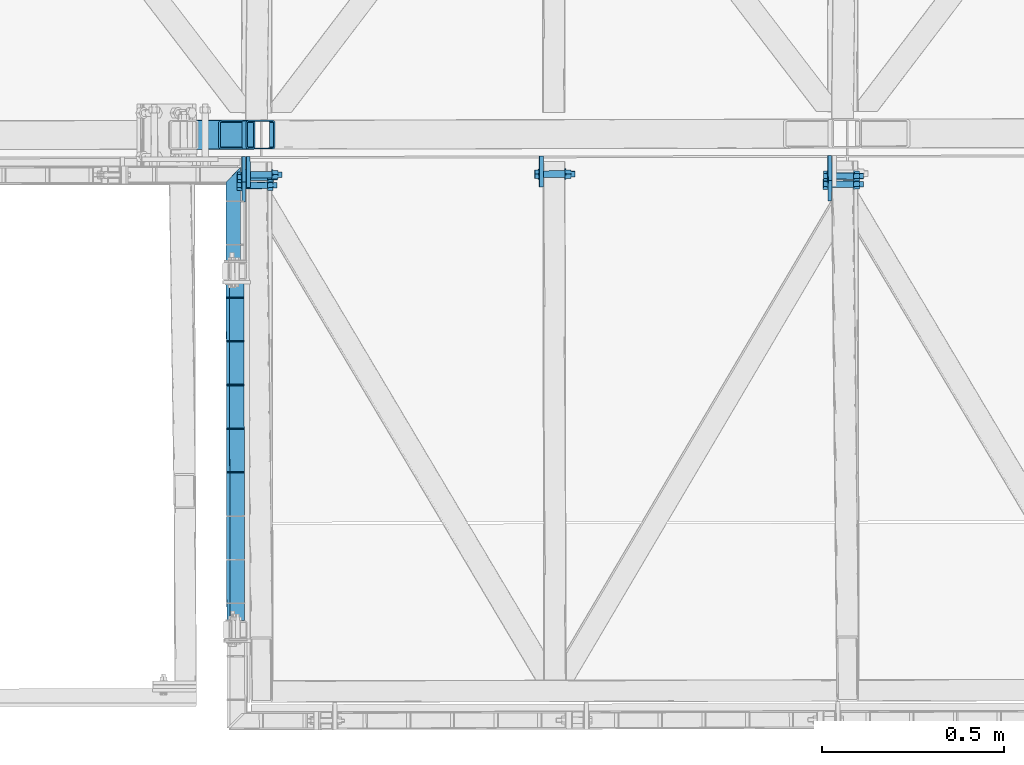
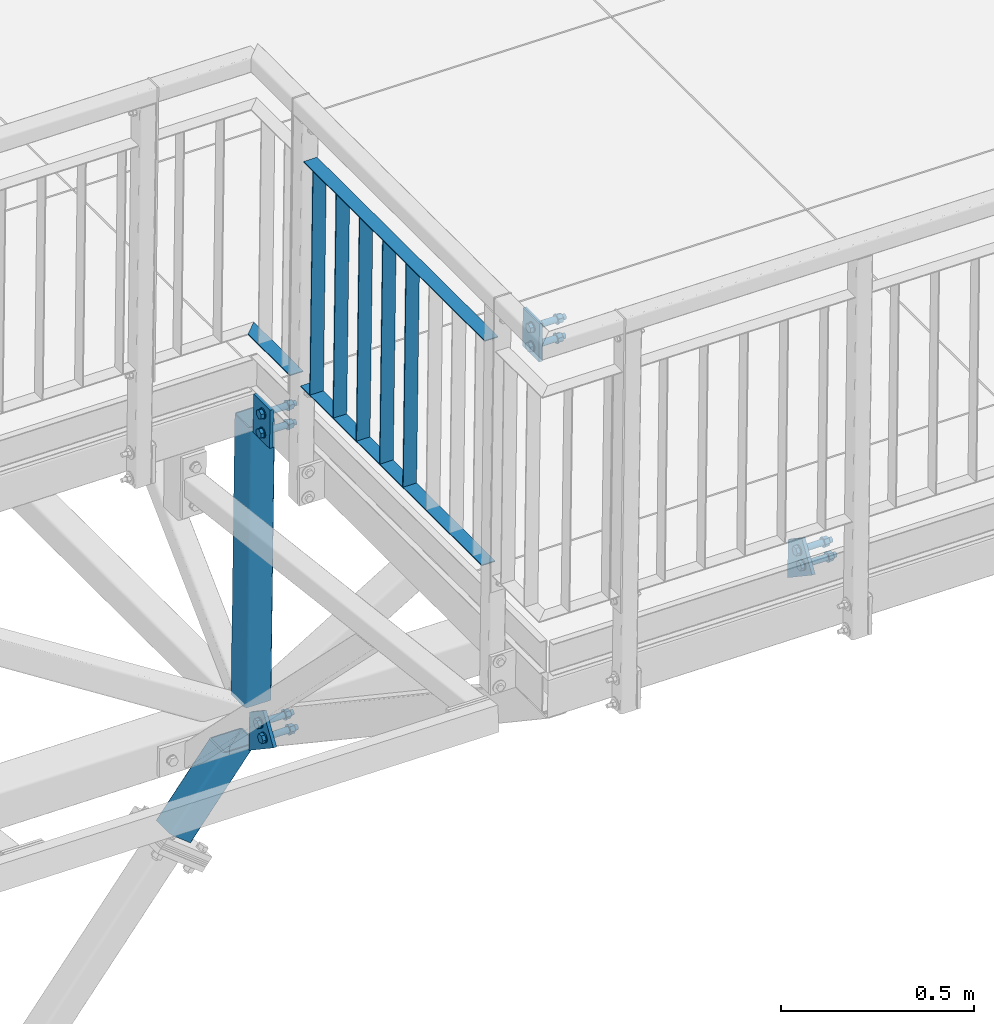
# One storey, part 109 of 169: 14 discrete accessories, 4 mechanical fasteners, 3 elements without a shape of their own.
"""IFC2X3 building model written with IfcOpenShell, lengths in millimetres."""

from ifc_helpers import new_model, si_unit, frame, frame_2d, origin_with_axes, origin_2d_with_axis, place, context, subcontext, project, spatial, polyline, circle_curve, parameter, trimmed, segment, composite_curve, rectangle, hollow_rectangle, circle, outline, extrude, boolean, clip, halfspace, source, transform, mapped, material, type_object, element, aggregate, save


model = new_model("IFC2X3")

# Units and contexts
model_context = context("Model", 3, precision=1e-05, world=origin_with_axes())
body_context = subcontext(model_context, "Body", "Model", "MODEL_VIEW")
ifc_project = project(units=[si_unit("LENGTHUNIT", "METRE", prefix="MILLI"), si_unit("AREAUNIT", "SQUARE_METRE"), si_unit("VOLUMEUNIT", "CUBIC_METRE"), si_unit("MASSUNIT", "GRAM", prefix="KILO"), si_unit("TIMEUNIT", "SECOND"), si_unit("PLANEANGLEUNIT", "RADIAN"), si_unit("SOLIDANGLEUNIT", "STERADIAN"), si_unit("THERMODYNAMICTEMPERATUREUNIT", "DEGREE_CELSIUS"), si_unit("LUMINOUSINTENSITYUNIT", "LUMEN")], contexts=[model_context])

# Site, building, storey
site_placement = place(None, origin_with_axes())
site = spatial("IfcSite", under=ifc_project, at=site_placement, Name="Undefined", CompositionType="ELEMENT")
building_placement = place(site_placement, origin_with_axes())
building = spatial("IfcBuilding", under=site, at=building_placement, Name="Undefined", CompositionType="ELEMENT")
storey_placement = place(building_placement, origin_with_axes())
storey = spatial("IfcBuildingStorey", under=building, at=storey_placement, Name="Undefined", CompositionType="ELEMENT", Elevation=0.0)

# Assembly, discrete accessories
assembly_1_placement = place(storey_placement, origin_with_axes())
assembly_1 = element("IfcElementAssembly", 1, at=assembly_1_placement, inside=storey, Name="Steel Assembly", AssemblyPlace="NOTDEFINED", PredefinedType="RIGID_FRAME")
ifc_material_1 = material(Name="STEEL/S355")
discrete_accessory_type_1 = type_object("IfcDiscreteAccessoryType", Name="BEAM")
discrete_accessory_1_placement = place(assembly_1_placement, frame((7478.4648161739, 118.960383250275, 12558.5708791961), z_axis=(-0.784458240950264, -0.00146288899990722, 0.620179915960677), x_axis=(0.620178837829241, 0.00115653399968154, 0.784459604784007)))
discrete_accessory_1 = element("IfcDiscreteAccessory", 2, at=discrete_accessory_1_placement, type_object=discrete_accessory_type_1, material=ifc_material_1, Name="BEAM", ObjectType="K80/4", context=body_context, shape_type="Clipping", body=[
    clip(clip(extrude(hollow_rectangle(XDim=80.0, YDim=80.0, WallThickness=4.0, InnerFilletRadius=4.0, OuterFilletRadius=8.0, at=origin_2d_with_axis()), frame((375.198448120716, 1.42997335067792e-14, -2.0654597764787e-13), z_axis=(-1.0, -3.46944695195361e-18, -1.38777878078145e-17), x_axis=(1.73472347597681e-18, -1.0, 0.0)), (0.0, 0.0, 1.0), 358.7), halfspace(frame((-278.391295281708, -2.59865785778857e-06, 755.671245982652), z_axis=(-0.792280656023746, -4.31759030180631e-08, -0.610156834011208), x_axis=(1.73472347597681e-18, -1.0, 0.0)), True)), halfspace(frame((16.5000003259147, 3.71528585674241e-10, -1000.00000000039), z_axis=(1.0, 0.0, 0.0), x_axis=(1.73472347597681e-18, -1.0, 0.0)), True)),
])
discrete_accessory_2_placement = place(assembly_1_placement, frame((7719.98291220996, 119.410728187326, 12856.038280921), z_axis=(-0.999917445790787, -0.00186469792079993, 0.0127131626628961), x_axis=(0.012713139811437, 2.3750999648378e-05, 0.999919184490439)))
discrete_accessory_2 = element("IfcDiscreteAccessory", 3, at=discrete_accessory_2_placement, type_object=discrete_accessory_type_1, material=ifc_material_1, Name="BEAM", ObjectType="K80/4", context=body_context, shape_type="Clipping", body=[
    clip(clip(extrude(hollow_rectangle(XDim=80.0, YDim=80.0, WallThickness=4.0, InnerFilletRadius=4.0, OuterFilletRadius=8.0, at=origin_2d_with_axis()), frame((940.000112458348, 4.54747487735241e-13, 0.0), z_axis=(-1.0, -3.46944695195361e-18, -1.38777878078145e-17), x_axis=(1.73472347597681e-18, -1.0, 0.0)), (0.0, 0.0, 1.0), 880.0), halfspace(frame((940.000112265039, -6.72889655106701e-09, 999.999999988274), z_axis=(-1.0, -3.46944695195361e-18, -1.38777878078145e-17), x_axis=(1.73472347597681e-18, -1.0, 0.0)), True)), halfspace(frame((60.0001122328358, 8.14088707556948e-09, 1000.00000001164), z_axis=(1.0, 0.0, 0.0), x_axis=(0.0, 1.0, 0.0)), True)),
])

assembly_2_placement = place(storey_placement, origin_with_axes())
assembly_2 = element("IfcElementAssembly", 4, at=assembly_2_placement, inside=storey, Name="Steel Assembly", AssemblyPlace="NOTDEFINED", PredefinedType="RIGID_FRAME")
ifc_material_2 = material(Name="STEEL/S235")
discrete_accessory_type_2 = type_object("IfcDiscreteAccessoryType", Name="PORĘCZ")
discrete_accessory_3_placement = place(assembly_2_placement, frame((7666.25905544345, -230.689979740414, 14871.8926181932), z_axis=(0.012713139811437, 2.3750999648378e-05, 0.999919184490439), x_axis=(0.00186484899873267, -0.999998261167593, 4.28757666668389e-08)))
discrete_accessory_3 = element("IfcDiscreteAccessory", 5, at=discrete_accessory_3_placement, type_object=discrete_accessory_type_2, material=ifc_material_2, Name="PORĘCZ", ObjectType="BL40*3", context=body_context, shape_type="CSG", body=[
    boolean("DIFFERENCE", boolean("DIFFERENCE", boolean("DIFFERENCE", boolean("DIFFERENCE", extrude(outline(polyline([(50.500000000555, -19.9999999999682), (50.5000000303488, 20.0000000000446), (984.50000013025, 20.0000000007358), (984.500000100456, -19.999999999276), (50.500000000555, -19.9999999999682)])), frame((1.81898940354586e-12, -1.77635442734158e-15, -1.50000000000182), z_axis=(0.0, 0.0, 1.0), x_axis=(1.0, 0.0, 0.0)), (0.0, 0.0, 1.0), 3.0), extrude(rectangle(XDim=51.0, YDim=51.0, at=origin_2d_with_axis()), frame((25.0000000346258, 1.44818630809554e-07, 139.999999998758), z_axis=(-2.54700353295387e-10, 0.0, -1.0), x_axis=(-1.0, -3.46944695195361e-18, -1.38777878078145e-17)), (0.0, 0.0, 1.0), 280.0)), extrude(rectangle(XDim=51.0, YDim=51.0, at=origin_2d_with_axis()), frame((1010.00000013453, -5.89554615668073e-07, 139.999999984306), z_axis=(-2.54700353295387e-10, 0.0, -1.0), x_axis=(-1.0, -3.46944695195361e-18, -1.38777878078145e-17)), (0.0, 0.0, 1.0), 280.0)), halfspace(frame((49.9999993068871, -1000.000000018, -2.67391442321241e-09), z_axis=(1.0, 0.0, 0.0), x_axis=(0.0, 0.0, 1.0)), True)), halfspace(frame((984.999999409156, -999.999999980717, 4.22915036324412e-09), z_axis=(-1.0, -3.46944695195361e-18, -1.38777878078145e-17), x_axis=(-2.54700353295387e-10, 0.0, -1.0)), True)),
])
discrete_accessory_4_placement = place(assembly_2_placement, frame((7668.28428365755, -328.186366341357, 15016.8809043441), z_axis=(0.9999174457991, 0.00186469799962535, -0.0127131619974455), x_axis=(-0.012713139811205, -2.37511238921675e-05, -0.999919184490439)))
discrete_accessory_4 = element("IfcDiscreteAccessory", 6, at=discrete_accessory_4_placement, type_object=discrete_accessory_type_2, material=ifc_material_2, Name="PORĘCZ", ObjectType="BL40*3", context=body_context, shape_type="Clipping", body=[
    clip(clip(extrude(rectangle(XDim=3.0, YDim=40.0, at=origin_2d_with_axis()), frame((848.500000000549, 1.47191286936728e-15, -8.89750592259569e-16), z_axis=(-1.0, -3.46944695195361e-18, -1.38777878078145e-17), x_axis=(1.73472347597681e-18, -1.0, 0.0)), (0.0, 0.0, 1.0), 702.0), halfspace(frame((848.500000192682, -1.64149582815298e-10, -999.999999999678), z_axis=(-1.0, -3.46944695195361e-18, -1.38777878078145e-17), x_axis=(0.0, 1.0, 0.0)), True)), halfspace(frame((146.500000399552, -5.92180526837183e-10, -999.999999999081), z_axis=(1.0, 0.0, 0.0), x_axis=(1.73472347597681e-18, -1.0, 0.0)), True)),
])
discrete_accessory_5_placement = place(assembly_2_placement, frame((7668.50806556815, -448.186157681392, 15016.8809095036), z_axis=(0.9999174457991, 0.00186469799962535, -0.0127131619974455), x_axis=(-0.012713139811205, -2.37511238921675e-05, -0.999919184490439)))
discrete_accessory_5 = element("IfcDiscreteAccessory", 7, at=discrete_accessory_5_placement, type_object=discrete_accessory_type_2, material=ifc_material_2, Name="PORĘCZ", ObjectType="BL40*3", context=body_context, shape_type="Clipping", body=[
    clip(clip(extrude(rectangle(XDim=3.0, YDim=40.0, at=origin_2d_with_axis()), frame((848.500000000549, 1.47191286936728e-15, -8.89750592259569e-16), z_axis=(-1.0, -3.46944695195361e-18, -1.38777878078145e-17), x_axis=(1.73472347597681e-18, -1.0, 0.0)), (0.0, 0.0, 1.0), 702.0), halfspace(frame((848.500000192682, -1.64149582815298e-10, -999.999999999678), z_axis=(-1.0, -3.46944695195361e-18, -1.38777878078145e-17), x_axis=(0.0, 1.0, 0.0)), True)), halfspace(frame((146.500000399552, -5.92180526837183e-10, -999.999999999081), z_axis=(1.0, 0.0, 0.0), x_axis=(1.73472347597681e-18, -1.0, 0.0)), True)),
])
discrete_accessory_6_placement = place(assembly_2_placement, frame((7668.73184747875, -568.185949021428, 15016.880914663), z_axis=(0.9999174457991, 0.00186469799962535, -0.0127131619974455), x_axis=(-0.012713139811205, -2.37511238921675e-05, -0.999919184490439)))
discrete_accessory_6 = element("IfcDiscreteAccessory", 8, at=discrete_accessory_6_placement, type_object=discrete_accessory_type_2, material=ifc_material_2, Name="PORĘCZ", ObjectType="BL40*3", context=body_context, shape_type="Clipping", body=[
    clip(clip(extrude(rectangle(XDim=3.0, YDim=40.0, at=origin_2d_with_axis()), frame((848.500000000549, 1.47191286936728e-15, -8.89750592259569e-16), z_axis=(-1.0, -3.46944695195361e-18, -1.38777878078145e-17), x_axis=(1.73472347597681e-18, -1.0, 0.0)), (0.0, 0.0, 1.0), 702.0), halfspace(frame((848.500000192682, -1.64149582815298e-10, -999.999999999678), z_axis=(-1.0, -3.46944695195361e-18, -1.38777878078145e-17), x_axis=(0.0, 1.0, 0.0)), True)), halfspace(frame((146.500000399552, -5.92180526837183e-10, -999.999999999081), z_axis=(1.0, 0.0, 0.0), x_axis=(1.73472347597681e-18, -1.0, 0.0)), True)),
])
discrete_accessory_7_placement = place(assembly_2_placement, frame((7668.95562938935, -688.185740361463, 15016.8809198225), z_axis=(0.9999174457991, 0.00186469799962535, -0.0127131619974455), x_axis=(-0.012713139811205, -2.37511238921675e-05, -0.999919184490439)))
discrete_accessory_7 = element("IfcDiscreteAccessory", 9, at=discrete_accessory_7_placement, type_object=discrete_accessory_type_2, material=ifc_material_2, Name="PORĘCZ", ObjectType="BL40*3", context=body_context, shape_type="Clipping", body=[
    clip(clip(extrude(rectangle(XDim=3.0, YDim=40.0, at=origin_2d_with_axis()), frame((848.500000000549, 1.47191286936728e-15, -8.89750592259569e-16), z_axis=(-1.0, -3.46944695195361e-18, -1.38777878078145e-17), x_axis=(1.73472347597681e-18, -1.0, 0.0)), (0.0, 0.0, 1.0), 702.0), halfspace(frame((848.500000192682, -1.64149582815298e-10, -999.999999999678), z_axis=(-1.0, -3.46944695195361e-18, -1.38777878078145e-17), x_axis=(0.0, 1.0, 0.0)), True)), halfspace(frame((146.500000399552, -5.92180526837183e-10, -999.999999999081), z_axis=(1.0, 0.0, 0.0), x_axis=(1.73472347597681e-18, -1.0, 0.0)), True)),
])
discrete_accessory_8_placement = place(assembly_2_placement, frame((7669.17941129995, -808.185531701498, 15016.880924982), z_axis=(0.9999174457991, 0.00186469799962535, -0.0127131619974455), x_axis=(-0.012713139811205, -2.37511238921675e-05, -0.999919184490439)))
discrete_accessory_8 = element("IfcDiscreteAccessory", 10, at=discrete_accessory_8_placement, type_object=discrete_accessory_type_2, material=ifc_material_2, Name="PORĘCZ", ObjectType="BL40*3", context=body_context, shape_type="Clipping", body=[
    clip(clip(extrude(rectangle(XDim=3.0, YDim=40.0, at=origin_2d_with_axis()), frame((848.500000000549, 1.47191286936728e-15, -8.89750592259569e-16), z_axis=(-1.0, -3.46944695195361e-18, -1.38777878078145e-17), x_axis=(1.73472347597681e-18, -1.0, 0.0)), (0.0, 0.0, 1.0), 702.0), halfspace(frame((848.500000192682, -1.64149582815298e-10, -999.999999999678), z_axis=(-1.0, -3.46944695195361e-18, -1.38777878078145e-17), x_axis=(0.0, 1.0, 0.0)), True)), halfspace(frame((146.500000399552, -5.92180526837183e-10, -999.999999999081), z_axis=(1.0, 0.0, 0.0), x_axis=(1.73472347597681e-18, -1.0, 0.0)), True)),
])
discrete_accessory_9_placement = place(assembly_2_placement, frame((7656.8767009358, -5.70711558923, 14166.949583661), z_axis=(0.012713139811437, 2.3750999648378e-05, 0.999919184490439), x_axis=(0.00186484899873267, -0.999998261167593, 4.28757666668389e-08)))
discrete_accessory_9 = element("IfcDiscreteAccessory", 11, at=discrete_accessory_9_placement, type_object=discrete_accessory_type_2, material=ifc_material_2, Name="PORĘCZ", ObjectType="BL40*3", context=body_context, shape_type="CSG", body=[
    boolean("DIFFERENCE", boolean("DIFFERENCE", boolean("DIFFERENCE", boolean("DIFFERENCE", extrude(outline(polyline([(5.00000188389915, -20.0000000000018), (-34.9999980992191, 19.9999999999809), (220.000004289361, 20.0000000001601), (220.000004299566, -19.9999999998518), (5.00000188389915, -20.0000000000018)])), frame((1.81898940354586e-12, -1.77635442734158e-15, -1.50000000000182), z_axis=(0.0, 0.0, 1.0), x_axis=(1.0, 0.0, 0.0)), (0.0, 0.0, 1.0), 3.0), extrude(rectangle(XDim=51.0, YDim=51.0, at=origin_2d_with_axis()), frame((249.999999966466, -2.54023980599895e-08, 139.999999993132), z_axis=(-2.54700353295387e-10, 0.0, -1.0), x_axis=(-1.0, -3.46944695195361e-18, -1.38777878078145e-17)), (0.0, 0.0, 1.0), 280.0)), halfspace(frame((220.000004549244, -1000.00000000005, 1.11504050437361e-09), z_axis=(-1.0, -3.46944695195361e-18, -1.38777878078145e-17), x_axis=(-2.54700353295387e-10, 0.0, -1.0)), True)), halfspace(frame((5.00000188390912, -20.0000000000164, -7.27595761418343e-12), z_axis=(-0.707106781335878, -0.707106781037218, 2.34571939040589e-10), x_axis=(-2.54700353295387e-10, 0.0, -1.0)), False)), halfspace(frame((224.9999992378, -999.999999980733, 4.2127794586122e-09), z_axis=(-1.0, -3.46944695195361e-18, -1.38777878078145e-17), x_axis=(-2.54700353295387e-10, 0.0, -1.0)), True)),
])
discrete_accessory_10_placement = place(assembly_2_placement, frame((7657.29629201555, -230.706724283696, 14166.9495933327), z_axis=(0.012713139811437, 2.3750999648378e-05, 0.999919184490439), x_axis=(0.00186484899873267, -0.999998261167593, 4.28757666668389e-08)))
discrete_accessory_10 = element("IfcDiscreteAccessory", 12, at=discrete_accessory_10_placement, type_object=discrete_accessory_type_2, material=ifc_material_2, Name="PORĘCZ", ObjectType="BL40*3", context=body_context, shape_type="CSG", body=[
    boolean("DIFFERENCE", boolean("DIFFERENCE", boolean("DIFFERENCE", boolean("DIFFERENCE", extrude(outline(polyline([(50.500000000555, -19.9999999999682), (50.5000000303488, 20.0000000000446), (984.50000013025, 20.0000000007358), (984.500000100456, -19.999999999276), (50.500000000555, -19.9999999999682)])), frame((1.81898940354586e-12, -1.77635442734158e-15, -1.50000000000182), z_axis=(0.0, 0.0, 1.0), x_axis=(1.0, 0.0, 0.0)), (0.0, 0.0, 1.0), 3.0), extrude(rectangle(XDim=51.0, YDim=51.0, at=origin_2d_with_axis()), frame((25.0000000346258, 1.44818630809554e-07, 139.999999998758), z_axis=(-2.54700353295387e-10, 0.0, -1.0), x_axis=(-1.0, -3.46944695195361e-18, -1.38777878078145e-17)), (0.0, 0.0, 1.0), 280.0)), extrude(rectangle(XDim=51.0, YDim=51.0, at=origin_2d_with_axis()), frame((1010.00000013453, -5.89554615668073e-07, 139.999999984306), z_axis=(-2.54700353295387e-10, 0.0, -1.0), x_axis=(-1.0, -3.46944695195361e-18, -1.38777878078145e-17)), (0.0, 0.0, 1.0), 280.0)), halfspace(frame((49.9999993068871, -1000.000000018, -2.67391442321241e-09), z_axis=(1.0, 0.0, 0.0), x_axis=(0.0, 0.0, 1.0)), True)), halfspace(frame((984.999999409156, -999.999999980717, 4.22915036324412e-09), z_axis=(-1.0, -3.46944695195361e-18, -1.38777878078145e-17), x_axis=(-2.54700353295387e-10, 0.0, -1.0)), True)),
])
aggregate(assembly_2, [discrete_accessory_3, discrete_accessory_4, discrete_accessory_5, discrete_accessory_6, discrete_accessory_7, discrete_accessory_8, discrete_accessory_9, discrete_accessory_10])

# Mechanical fastener
ifc_material_3 = material(Name="Undefined")
discrete_accessory_type_3 = type_object("IfcDiscreteAccessoryType", Name="Bolt assembly")
shared_shape_1 = source(origin_with_axes(), body_context, "Body", "SweptSolid", [
    extrude(circle(Radius=9.5, at=origin_2d_with_axis()), frame((0.0, 9.90000279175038, 0.0), z_axis=(0.0, 1.0, 0.0), x_axis=(1.0, 0.0, 0.0)), (0.0, 0.0, 1.0), 60.1),
    extrude(outline(composite_curve([segment(polyline([(9.5, 10.0), (9.5, -10.0)]), True, "CONTINUOUS"), segment(trimmed(circle_curve(frame_2d((0.0, -10.0), x_axis=(1.0, 0.0)), 9.5), [parameter(0.0)], [parameter(3.14159265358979)], False, "PARAMETER"), True, "CONTINUOUS"), segment(polyline([(-9.5, -10.0), (-9.5, 10.0)]), True, "CONTINUOUS"), segment(trimmed(circle_curve(frame_2d((0.0, 10.0), x_axis=(-1.0, 0.0)), 9.5), [parameter(0.0)], [parameter(3.14159265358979)], False, "PARAMETER"), True, "DISCONTINUOUS")], self_intersect=False)), frame((0.0, 0.100000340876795, 0.0), z_axis=(0.0, 1.0, 0.0), x_axis=(1.0, 0.0, 0.0)), (0.0, 0.0, 1.0), 10.0),
    extrude(outline(polyline([(13.85640646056, 0.0), (6.92820323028, 12.0000000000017), (-6.92820323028, 12.0000000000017), (-13.85640646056, 0.0), (-6.92820323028, -12.0000000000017), (6.92820323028, -12.0000000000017), (13.85640646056, 0.0)])), frame((0.0, -13.0000060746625, 0.0), z_axis=(0.0, 1.0, 0.0), x_axis=(1.0, 0.0, 0.0)), (0.0, 0.0, 1.0), 10.0),
    extrude(circle(Radius=8.0, at=origin_2d_with_axis()), frame((0.0, -3.00000607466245, 0.0), z_axis=(0.0, 1.0, 0.0), x_axis=(1.0, 0.0, 0.0)), (0.0, 0.0, 1.0), 100.0),
    extrude(circle(Radius=15.0, at=origin_2d_with_axis()), frame((0.0, -3.00000607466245, 0.0), z_axis=(0.0, 1.0, 0.0), x_axis=(1.0, 0.0, 0.0)), (0.0, 0.0, 1.0), 3.0),
    extrude(circle(Radius=15.0, at=origin_2d_with_axis()), frame((0.0, 70.000002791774, 0.0), z_axis=(0.0, 1.0, 0.0), x_axis=(1.0, 0.0, 0.0)), (0.0, 0.0, 1.0), 3.0),
    extrude(outline(polyline([(13.85640646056, 0.0), (6.92820323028, 12.0000000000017), (-6.92820323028, 12.0000000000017), (-13.85640646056, 0.0), (-6.92820323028, -12.0000000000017), (6.92820323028, -12.0000000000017), (13.85640646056, 0.0)])), frame((0.0, 73.000002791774, 0.0), z_axis=(0.0, 1.0, 0.0), x_axis=(1.0, 0.0, 0.0)), (0.0, 0.0, 1.0), 13.0),
])
mechanical_fastener_1_placement = place(assembly_1_placement, frame((9290.85990969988, 5.48321175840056, 12898.1077580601), z_axis=(0.00860362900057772, -0.832035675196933, 0.554655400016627), x_axis=(-0.00954354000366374, -0.554718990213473, -0.831983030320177)))
mechanical_fastener_1 = element("IfcMechanicalFastener", 13, at=mechanical_fastener_1_placement, type_object=discrete_accessory_type_3, material=ifc_material_3, Name="Bolt assembly", NominalDiameter=16.0, NominalLength=100.0, context=body_context, shape_type="MappedRepresentation", body=[
    mapped(shared_shape_1, transform((0.0, 0.0, 0.0))),
    mapped(shared_shape_1, transform((39.9999999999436, -6.54836185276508e-11, 2.74846811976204e-11))),
])

# Discrete accessory
discrete_accessory_type_4 = type_object("IfcDiscreteAccessoryType", Name="KRATA")
discrete_accessory_11_placement = place(assembly_1_placement, frame((9294.20203181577, 62.3463127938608, 12776.0200154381), z_axis=(-0.999917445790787, -0.00186469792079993, 0.0127131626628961), x_axis=(0.00860362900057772, -0.832035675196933, 0.554655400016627)))
discrete_accessory_11 = element("IfcDiscreteAccessory", 14, at=discrete_accessory_11_placement, type_object=discrete_accessory_type_4, material=ifc_material_1, Name="KRATA", ObjectType="BL10*100", context=body_context, shape_type="SweptSolid", body=[
    extrude(outline(polyline([(0.0, 0.0), (150.000000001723, 4.00177668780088e-11), (150.000000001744, 99.9999923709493), (66.5640258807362, 99.9999923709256), (0.0, 0.0)])), frame((-1.81898926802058e-12, -1.18000176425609e-16, -5.00000000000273), z_axis=(0.0, 0.0, 1.0), x_axis=(1.0, 0.0, 0.0)), (0.0, 0.0, 1.0), 10.0),
])

discrete_accessory_12_placement = place(assembly_1_placement, frame((7684.33490628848, 59.3441489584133, 12796.4882067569), z_axis=(-0.999917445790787, -0.00186469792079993, 0.0127131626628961), x_axis=(0.00860362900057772, -0.832035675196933, 0.554655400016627)))
discrete_accessory_12 = element("IfcDiscreteAccessory", 15, at=discrete_accessory_12_placement, type_object=discrete_accessory_type_4, material=ifc_material_1, Name="KRATA", ObjectType="BL10*100", context=body_context, shape_type="SweptSolid", body=[
    extrude(outline(polyline([(0.0, 0.0), (150.000000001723, 4.00177668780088e-11), (150.000000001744, 99.9999923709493), (66.5640258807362, 99.9999923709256), (0.0, 0.0)])), frame((-1.81898926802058e-12, -1.18000176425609e-16, -5.00000000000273), z_axis=(0.0, 0.0, 1.0), x_axis=(1.0, 0.0, 0.0)), (0.0, 0.0, 1.0), 10.0),
])

# Mechanical fastener
shared_shape_2 = source(origin_with_axes(), body_context, "Body", "SweptSolid", [
    extrude(circle(Radius=9.5, at=origin_2d_with_axis()), frame((0.0, 9.90000279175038, 0.0), z_axis=(0.0, 1.0, 0.0), x_axis=(1.0, 0.0, 0.0)), (0.0, 0.0, 1.0), 60.1),
    extrude(outline(composite_curve([segment(polyline([(9.5, 10.0), (9.5, -10.0)]), True, "CONTINUOUS"), segment(trimmed(circle_curve(frame_2d((0.0, -10.0), x_axis=(1.0, 0.0)), 9.5), [parameter(0.0)], [parameter(3.14159265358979)], False, "PARAMETER"), True, "CONTINUOUS"), segment(polyline([(-9.5, -10.0), (-9.5, 10.0)]), True, "CONTINUOUS"), segment(trimmed(circle_curve(frame_2d((0.0, 10.0), x_axis=(-1.0, 0.0)), 9.5), [parameter(0.0)], [parameter(3.14159265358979)], False, "PARAMETER"), True, "DISCONTINUOUS")], self_intersect=False)), frame((0.0, 0.100000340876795, 0.0), z_axis=(0.0, 1.0, 0.0), x_axis=(1.0, 0.0, 0.0)), (0.0, 0.0, 1.0), 10.0),
    extrude(outline(polyline([(13.85640646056, 0.0), (6.92820323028, 12.0000000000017), (-6.92820323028, 12.0000000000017), (-13.85640646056, 0.0), (-6.92820323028, -12.0000000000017), (6.92820323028, -12.0000000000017), (13.85640646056, 0.0)])), frame((0.0, -13.0000060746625, 0.0), z_axis=(0.0, 1.0, 0.0), x_axis=(1.0, 0.0, 0.0)), (0.0, 0.0, 1.0), 10.0),
    extrude(circle(Radius=8.0, at=origin_2d_with_axis()), frame((0.0, -3.00000607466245, 0.0), z_axis=(0.0, 1.0, 0.0), x_axis=(1.0, 0.0, 0.0)), (0.0, 0.0, 1.0), 100.0),
    extrude(circle(Radius=15.0, at=origin_2d_with_axis()), frame((0.0, -3.00000607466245, 0.0), z_axis=(0.0, 1.0, 0.0), x_axis=(1.0, 0.0, 0.0)), (0.0, 0.0, 1.0), 3.0),
    extrude(circle(Radius=15.0, at=origin_2d_with_axis()), frame((0.0, 70.000002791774, 0.0), z_axis=(0.0, 1.0, 0.0), x_axis=(1.0, 0.0, 0.0)), (0.0, 0.0, 1.0), 3.0),
    extrude(outline(polyline([(13.85640646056, 0.0), (6.92820323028, 12.0000000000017), (-6.92820323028, 12.0000000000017), (-13.85640646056, 0.0), (-6.92820323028, -12.0000000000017), (6.92820323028, -12.0000000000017), (13.85640646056, 0.0)])), frame((0.0, 73.000002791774, 0.0), z_axis=(0.0, 1.0, 0.0), x_axis=(1.0, 0.0, 0.0)), (0.0, 0.0, 1.0), 13.0),
])
mechanical_fastener_2_placement = place(assembly_1_placement, frame((7680.99278417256, 2.48104792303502, 12918.575949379), z_axis=(0.00860362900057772, -0.832035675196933, 0.554655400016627), x_axis=(-0.00954354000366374, -0.554718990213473, -0.831983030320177)))
mechanical_fastener_2 = element("IfcMechanicalFastener", 16, at=mechanical_fastener_2_placement, type_object=discrete_accessory_type_3, material=ifc_material_3, Name="Bolt assembly", NominalDiameter=16.0, NominalLength=100.0, context=body_context, shape_type="MappedRepresentation", body=[
    mapped(shared_shape_2, transform((0.0, 0.0, 0.0))),
    mapped(shared_shape_2, transform((39.9999999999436, -6.54836185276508e-11, 2.74846811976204e-11))),
])

# Assembly, mechanical fastener
assembly_3_placement = place(storey_placement, origin_with_axes())
assembly_3 = element("IfcElementAssembly", 17, at=assembly_3_placement, inside=storey, Name="Steel Assembly", AssemblyPlace="NOTDEFINED", PredefinedType="RIGID_FRAME")
shared_shape_3 = source(origin_with_axes(), body_context, "Body", "SweptSolid", [
    extrude(outline(composite_curve([segment(polyline([(9.5, 10.0), (9.5, -10.0)]), True, "CONTINUOUS"), segment(trimmed(circle_curve(frame_2d((0.0, -10.0), x_axis=(1.0, 0.0)), 9.5), [parameter(0.0)], [parameter(3.14159265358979)], False, "PARAMETER"), True, "CONTINUOUS"), segment(polyline([(-9.5, -10.0), (-9.5, 10.0)]), True, "CONTINUOUS"), segment(trimmed(circle_curve(frame_2d((0.0, 10.0), x_axis=(-1.0, 0.0)), 9.5), [parameter(0.0)], [parameter(3.14159265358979)], False, "PARAMETER"), True, "DISCONTINUOUS")], self_intersect=False)), frame((0.0, -9.90000000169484, 0.0), z_axis=(0.0, 1.0, 0.0), x_axis=(1.0, 0.0, 0.0)), (0.0, 0.0, 1.0), 10.0),
    extrude(circle(Radius=9.5, at=origin_2d_with_axis()), frame((0.0, -0.100000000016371, 0.0), z_axis=(0.0, 1.0, 0.0), x_axis=(1.0, 0.0, 0.0)), (0.0, 0.0, 1.0), 60.1),
    extrude(outline(polyline([(13.85640646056, 0.0), (6.92820323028, 12.0000000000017), (-6.92820323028, 12.0000000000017), (-13.85640646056, 0.0), (-6.92820323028, -12.0000000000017), (6.92820323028, -12.0000000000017), (13.85640646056, 0.0)])), frame((0.0, -22.99999998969, 0.0), z_axis=(0.0, 1.0, 0.0), x_axis=(1.0, 0.0, 0.0)), (0.0, 0.0, 1.0), 10.0),
    extrude(circle(Radius=8.0, at=origin_2d_with_axis()), frame((0.0, -13.0000060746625, 0.0), z_axis=(0.0, 1.0, 0.0), x_axis=(1.0, 0.0, 0.0)), (0.0, 0.0, 1.0), 100.0),
    extrude(circle(Radius=15.0, at=origin_2d_with_axis()), frame((0.0, -13.0000060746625, 0.0), z_axis=(0.0, 1.0, 0.0), x_axis=(1.0, 0.0, 0.0)), (0.0, 0.0, 1.0), 3.0),
    extrude(circle(Radius=15.0, at=origin_2d_with_axis()), frame((0.0, 60.0000000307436, 0.0), z_axis=(0.0, 1.0, 0.0), x_axis=(1.0, 0.0, 0.0)), (0.0, 0.0, 1.0), 3.0),
    extrude(outline(polyline([(13.85640646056, 0.0), (6.92820323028, 12.0000000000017), (-6.92820323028, 12.0000000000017), (-13.85640646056, 0.0), (-6.92820323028, -12.0000000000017), (6.92820323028, -12.0000000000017), (13.85640646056, 0.0)])), frame((0.0, 63.0000000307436, 0.0), z_axis=(0.0, 1.0, 0.0), x_axis=(1.0, 0.0, 0.0)), (0.0, 0.0, 1.0), 13.0),
])
mechanical_fastener_3_placement = place(assembly_3_placement, frame((7703.57321313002, 59.3800672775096, 13916.334124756), z_axis=(0.00186484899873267, -0.999998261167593, 4.28757666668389e-08), x_axis=(-0.012713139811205, -2.37511238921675e-05, -0.999919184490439)))
mechanical_fastener_3 = element("IfcMechanicalFastener", 18, at=mechanical_fastener_3_placement, type_object=discrete_accessory_type_3, material=ifc_material_3, Name="Bolt assembly", NominalDiameter=16.0, NominalLength=100.0, context=body_context, shape_type="MappedRepresentation", body=[
    mapped(shared_shape_3, transform((29.9999999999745, 9.09494701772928e-13, 50.0000000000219))),
    mapped(shared_shape_3, transform((89.9999999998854, -1.09139364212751e-11, 50.0000000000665))),
])

# Discrete accessory
discrete_accessory_type_5 = type_object("IfcDiscreteAccessoryType", Name="ANGLE")
discrete_accessory_13_placement = place(assembly_1_placement, frame((7698.65288199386, 16.8708176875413, 13916.3976923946), z_axis=(0.00186484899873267, -0.999998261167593, 4.28757666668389e-08), x_axis=(-0.012713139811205, -2.37511238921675e-05, -0.999919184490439)))
discrete_accessory_13 = element("IfcDiscreteAccessory", 19, at=discrete_accessory_13_placement, type_object=discrete_accessory_type_5, material=ifc_material_1, Name="ANGLE", ObjectType="BL85X10", context=body_context, shape_type="SweptSolid", body=[
    extrude(rectangle(XDim=10.0, YDim=85.0, at=origin_2d_with_axis()), frame((119.999999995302, 0.0, 1.94394063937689e-27), z_axis=(-1.0, -3.46944695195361e-18, -1.38777878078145e-17), x_axis=(1.73472347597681e-18, -1.0, 0.0)), (0.0, 0.0, 1.0), 120.0),
])

discrete_accessory_14_placement = place(assembly_1_placement, frame((8503.58644311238, 18.3718996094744, 13906.1635965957), z_axis=(0.00186484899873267, -0.999998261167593, 4.28757666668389e-08), x_axis=(-0.012713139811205, -2.37511238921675e-05, -0.999919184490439)))
discrete_accessory_14 = element("IfcDiscreteAccessory", 20, at=discrete_accessory_14_placement, type_object=discrete_accessory_type_5, material=ifc_material_1, Name="ANGLE", ObjectType="BL85X10", context=body_context, shape_type="SweptSolid", body=[
    extrude(rectangle(XDim=10.0, YDim=85.0, at=origin_2d_with_axis()), frame((119.999999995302, 0.0, 1.94394063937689e-27), z_axis=(-1.0, -3.46944695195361e-18, -1.38777878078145e-17), x_axis=(1.73472347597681e-18, -1.0, 0.0)), (0.0, 0.0, 1.0), 120.0),
])

aggregate(assembly_1, [mechanical_fastener_1, discrete_accessory_11, mechanical_fastener_2, discrete_accessory_12, discrete_accessory_13, discrete_accessory_14, discrete_accessory_1, discrete_accessory_2])

# Mechanical fastener
shared_shape_4 = source(origin_with_axes(), body_context, "Body", "SweptSolid", [
    extrude(outline(composite_curve([segment(polyline([(9.5, 10.0), (9.5, -10.0)]), True, "CONTINUOUS"), segment(trimmed(circle_curve(frame_2d((0.0, -10.0), x_axis=(1.0, 0.0)), 9.5), [parameter(0.0)], [parameter(3.14159265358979)], False, "PARAMETER"), True, "CONTINUOUS"), segment(polyline([(-9.5, -10.0), (-9.5, 10.0)]), True, "CONTINUOUS"), segment(trimmed(circle_curve(frame_2d((0.0, 10.0), x_axis=(-1.0, 0.0)), 9.5), [parameter(0.0)], [parameter(3.14159265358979)], False, "PARAMETER"), True, "DISCONTINUOUS")], self_intersect=False)), frame((0.0, -9.90000000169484, 0.0), z_axis=(0.0, 1.0, 0.0), x_axis=(1.0, 0.0, 0.0)), (0.0, 0.0, 1.0), 10.0),
    extrude(circle(Radius=9.5, at=origin_2d_with_axis()), frame((0.0, -0.100000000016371, 0.0), z_axis=(0.0, 1.0, 0.0), x_axis=(1.0, 0.0, 0.0)), (0.0, 0.0, 1.0), 60.1),
    extrude(outline(polyline([(13.85640646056, 0.0), (6.92820323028, 12.0000000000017), (-6.92820323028, 12.0000000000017), (-13.85640646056, 0.0), (-6.92820323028, -12.0000000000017), (6.92820323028, -12.0000000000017), (13.85640646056, 0.0)])), frame((0.0, -22.99999998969, 0.0), z_axis=(0.0, 1.0, 0.0), x_axis=(1.0, 0.0, 0.0)), (0.0, 0.0, 1.0), 10.0),
    extrude(circle(Radius=8.0, at=origin_2d_with_axis()), frame((0.0, -13.0000060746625, 0.0), z_axis=(0.0, 1.0, 0.0), x_axis=(1.0, 0.0, 0.0)), (0.0, 0.0, 1.0), 100.0),
    extrude(circle(Radius=15.0, at=origin_2d_with_axis()), frame((0.0, -13.0000060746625, 0.0), z_axis=(0.0, 1.0, 0.0), x_axis=(1.0, 0.0, 0.0)), (0.0, 0.0, 1.0), 3.0),
    extrude(circle(Radius=15.0, at=origin_2d_with_axis()), frame((0.0, 60.0000000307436, 0.0), z_axis=(0.0, 1.0, 0.0), x_axis=(1.0, 0.0, 0.0)), (0.0, 0.0, 1.0), 3.0),
    extrude(outline(polyline([(13.85640646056, 0.0), (6.92820323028, 12.0000000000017), (-6.92820323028, 12.0000000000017), (-13.85640646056, 0.0), (-6.92820323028, -12.0000000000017), (6.92820323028, -12.0000000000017), (13.85640646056, 0.0)])), frame((0.0, 63.0000000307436, 0.0), z_axis=(0.0, 1.0, 0.0), x_axis=(1.0, 0.0, 0.0)), (0.0, 0.0, 1.0), 13.0),
])
mechanical_fastener_4_placement = place(assembly_3_placement, frame((8508.50677424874, 60.8811491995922, 13906.100028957), z_axis=(0.00186484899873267, -0.999998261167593, 4.28757666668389e-08), x_axis=(-0.012713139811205, -2.37511238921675e-05, -0.999919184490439)))
mechanical_fastener_4 = element("IfcMechanicalFastener", 21, at=mechanical_fastener_4_placement, type_object=discrete_accessory_type_3, material=ifc_material_3, Name="Bolt assembly", NominalDiameter=16.0, NominalLength=100.0, context=body_context, shape_type="MappedRepresentation", body=[
    mapped(shared_shape_4, transform((29.9999999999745, 9.09494701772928e-13, 50.0000000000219))),
    mapped(shared_shape_4, transform((89.9999999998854, -1.09139364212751e-11, 50.0000000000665))),
])

aggregate(assembly_3, [mechanical_fastener_3, mechanical_fastener_4])

save(model, "model.ifc")
